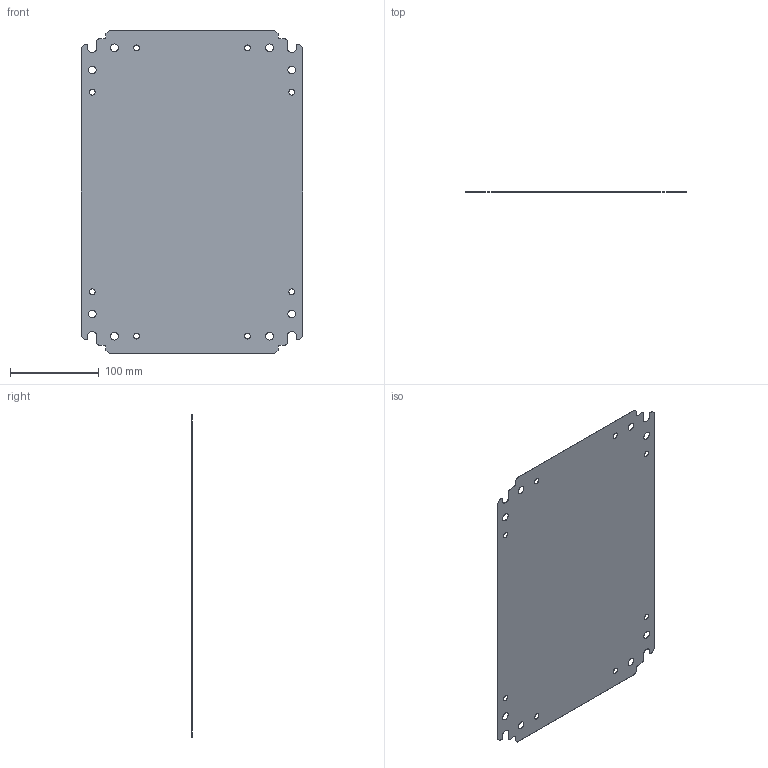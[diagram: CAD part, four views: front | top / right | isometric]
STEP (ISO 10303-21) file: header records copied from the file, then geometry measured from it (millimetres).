
FILE_DESCRIPTION( ( 'Unknown' ), '1' );
FILE_NAME( 'f:/batch/stp/PWPA4333.stp', 'Unknown', ( 'Unknown' ), ( 'Unknown' ), 'PSStep 10.1', 'Unknown', ' ' );
FILE_SCHEMA( ( 'AUTOMOTIVE_DESIGN { 1 0 10303 214 1 1 1 1 }' ) );
Length unit declared in the file: millimetre
Products named in the file (2): Assem1; COM53896
Bounding box: 250.01 x 0.32 x 365 mm (x, y, z)
Surface area: 355327.3 mm2
Topology: 2 solids, 2 shells, 124 faces, 392 edges, 272 vertices
Faces by surface type: plane 68, cylinder 56
Full cylindrical faces by diameter (mm): 6.502 x16, 8.738 x16
Entity records: 2078 total; most frequent: CARTESIAN_POINT 348, DIRECTION 348, ORIENTED_EDGE 328, EDGE_CURVE 164, AXIS2_PLACEMENT_3D 120, VERTEX_POINT 120, EDGE_LOOP 110, LINE 108
